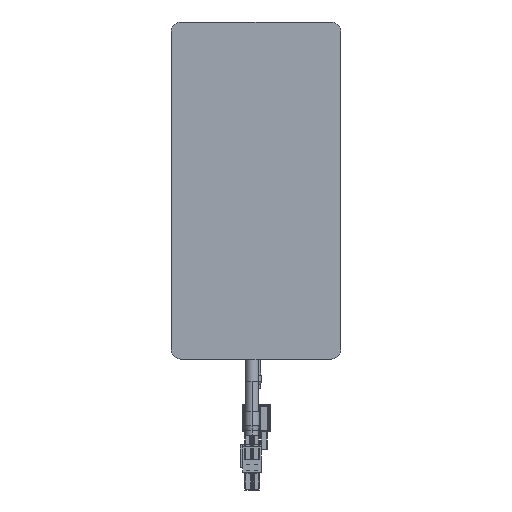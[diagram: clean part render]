
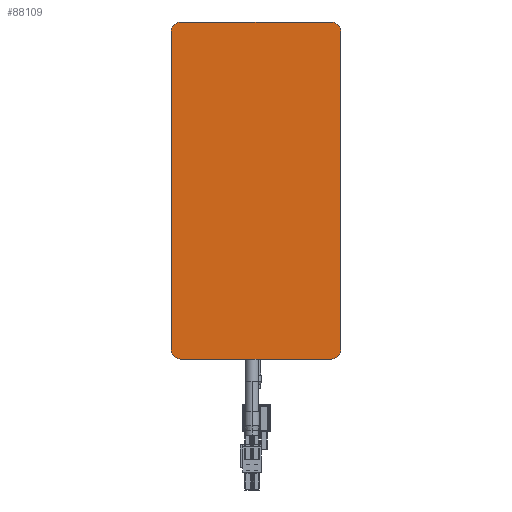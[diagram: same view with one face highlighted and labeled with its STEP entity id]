
A CAD part, left-side view. The second image highlights one B-rep face of the part: STEP entity #88109.
In plain terms, the highlighted planar face has unit normal (-1, 0, 0) as drawn and (0, 1, 0) by its records, which use the part's own axes.
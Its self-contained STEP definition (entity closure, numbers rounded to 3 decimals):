
#1542 = DIRECTION ( 'NONE',  ( 0., 1., 0. ) ) ;
#2554 = CARTESIAN_POINT ( 'NONE',  ( 83.5, 43., -39.5 ) ) ;
#3310 = AXIS2_PLACEMENT_3D ( 'NONE', #9570, #56960, #112982 ) ;
#5109 = VERTEX_POINT ( 'NONE', #60557 ) ;
#8997 = CARTESIAN_POINT ( 'NONE',  ( -83.5, 43., 44.5 ) ) ;
#9570 = CARTESIAN_POINT ( 'NONE',  ( -83.5, 43., 39.5 ) ) ;
#9659 = EDGE_CURVE ( 'NONE', #106173, #14027, #30260, .T. ) ;
#10201 = EDGE_CURVE ( 'NONE', #5109, #106173, #51626, .T. ) ;
#11757 = VECTOR ( 'NONE', #35892, 1000. ) ;
#14027 = VERTEX_POINT ( 'NONE', #67710 ) ;
#16218 = LINE ( 'NONE', #51970, #18433 ) ;
#16929 = CARTESIAN_POINT ( 'NONE',  ( -88.5, 43., 39.5 ) ) ;
#17516 = DIRECTION ( 'NONE',  ( 0., 1., 0. ) ) ;
#18433 = VECTOR ( 'NONE', #117896, 1000. ) ;
#18450 = AXIS2_PLACEMENT_3D ( 'NONE', #2554, #77669, #85717 ) ;
#20028 = ORIENTED_EDGE ( 'NONE', *, *, #94321, .T. ) ;
#23161 = PLANE ( 'NONE',  #101680 ) ;
#23354 = DIRECTION ( 'NONE',  ( 0., 1., 0. ) ) ;
#24930 = CIRCLE ( 'NONE', #3310, 5. ) ;
#25140 = CIRCLE ( 'NONE', #54641, 5. ) ;
#25579 = ORIENTED_EDGE ( 'NONE', *, *, #97556, .T. ) ;
#29398 = EDGE_CURVE ( 'NONE', #47273, #5109, #25140, .T. ) ;
#30035 = LINE ( 'NONE', #97145, #84351 ) ;
#30260 = CIRCLE ( 'NONE', #18450, 5. ) ;
#31239 = VERTEX_POINT ( 'NONE', #8997 ) ;
#34088 = CARTESIAN_POINT ( 'NONE',  ( -88.5, 43., -44.5 ) ) ;
#35892 = DIRECTION ( 'NONE',  ( 0., 0., 1. ) ) ;
#38119 = EDGE_LOOP ( 'NONE', ( #82500, #116440, #25579, #69994, #86911, #20028, #119066, #105700 ) ) ;
#40834 = VERTEX_POINT ( 'NONE', #57059 ) ;
#41523 = CARTESIAN_POINT ( 'NONE',  ( 83.5, 43., 44.5 ) ) ;
#41780 = DIRECTION ( 'NONE',  ( 0., 0., -1. ) ) ;
#43760 = AXIS2_PLACEMENT_3D ( 'NONE', #51065, #23354, #67688 ) ;
#44011 = CARTESIAN_POINT ( 'NONE',  ( 0., 43., 0. ) ) ;
#47273 = VERTEX_POINT ( 'NONE', #41523 ) ;
#49375 = VERTEX_POINT ( 'NONE', #16929 ) ;
#50336 = DIRECTION ( 'NONE',  ( -1., 0., 0. ) ) ;
#51065 = CARTESIAN_POINT ( 'NONE',  ( -83.5, 43., -39.5 ) ) ;
#51626 = LINE ( 'NONE', #116318, #67850 ) ;
#51970 = CARTESIAN_POINT ( 'NONE',  ( -88.5, 43., 44.5 ) ) ;
#54367 = LINE ( 'NONE', #34088, #11757 ) ;
#54641 = AXIS2_PLACEMENT_3D ( 'NONE', #103767, #1542, #66803 ) ;
#56960 = DIRECTION ( 'NONE',  ( 0., 1., 0. ) ) ;
#57059 = CARTESIAN_POINT ( 'NONE',  ( -88.5, 43., -39.5 ) ) ;
#60557 = CARTESIAN_POINT ( 'NONE',  ( 88.5, 43., 39.5 ) ) ;
#60560 = EDGE_CURVE ( 'NONE', #40834, #49375, #54367, .T. ) ;
#60667 = VERTEX_POINT ( 'NONE', #101795 ) ;
#65226 = CARTESIAN_POINT ( 'NONE',  ( 88.5, 43., -39.5 ) ) ;
#66803 = DIRECTION ( 'NONE',  ( 0., 0., 1. ) ) ;
#67688 = DIRECTION ( 'NONE',  ( 0., 0., 1. ) ) ;
#67710 = CARTESIAN_POINT ( 'NONE',  ( 83.5, 43., -44.5 ) ) ;
#67850 = VECTOR ( 'NONE', #41780, 1000. ) ;
#69994 = ORIENTED_EDGE ( 'NONE', *, *, #77762, .T. ) ;
#77669 = DIRECTION ( 'NONE',  ( 0., 1., 0. ) ) ;
#77762 = EDGE_CURVE ( 'NONE', #60667, #40834, #88967, .T. ) ;
#79558 = EDGE_CURVE ( 'NONE', #31239, #47273, #16218, .T. ) ;
#82500 = ORIENTED_EDGE ( 'NONE', *, *, #10201, .T. ) ;
#84351 = VECTOR ( 'NONE', #50336, 1000. ) ;
#85717 = DIRECTION ( 'NONE',  ( 0., 0., 1. ) ) ;
#86911 = ORIENTED_EDGE ( 'NONE', *, *, #60560, .T. ) ;
#88109 = ADVANCED_FACE ( 'NONE', ( #107505 ), #23161, .T. ) ;
#88967 = CIRCLE ( 'NONE', #43760, 5. ) ;
#94321 = EDGE_CURVE ( 'NONE', #49375, #31239, #24930, .T. ) ;
#97145 = CARTESIAN_POINT ( 'NONE',  ( -88.5, 43., -44.5 ) ) ;
#97556 = EDGE_CURVE ( 'NONE', #14027, #60667, #30035, .T. ) ;
#100687 = DIRECTION ( 'NONE',  ( 0., 0., 1. ) ) ;
#101680 = AXIS2_PLACEMENT_3D ( 'NONE', #44011, #17516, #100687 ) ;
#101795 = CARTESIAN_POINT ( 'NONE',  ( -83.5, 43., -44.5 ) ) ;
#103767 = CARTESIAN_POINT ( 'NONE',  ( 83.5, 43., 39.5 ) ) ;
#105700 = ORIENTED_EDGE ( 'NONE', *, *, #29398, .T. ) ;
#106173 = VERTEX_POINT ( 'NONE', #65226 ) ;
#107505 = FACE_OUTER_BOUND ( 'NONE', #38119, .T. ) ;
#112982 = DIRECTION ( 'NONE',  ( 0., 0., 1. ) ) ;
#116318 = CARTESIAN_POINT ( 'NONE',  ( 88.5, 43., -44.5 ) ) ;
#116440 = ORIENTED_EDGE ( 'NONE', *, *, #9659, .T. ) ;
#117896 = DIRECTION ( 'NONE',  ( 1., 0., 0. ) ) ;
#119066 = ORIENTED_EDGE ( 'NONE', *, *, #79558, .T. ) ;
